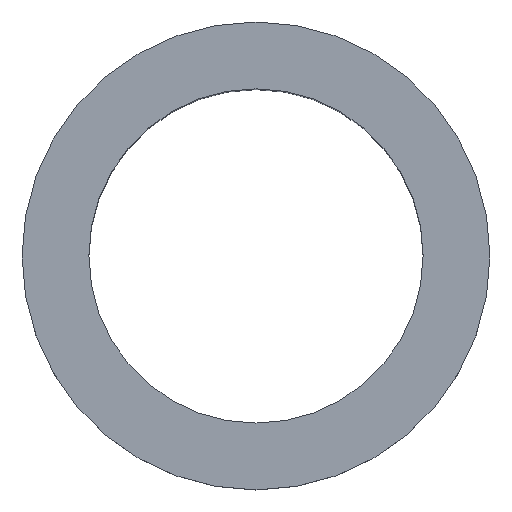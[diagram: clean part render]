
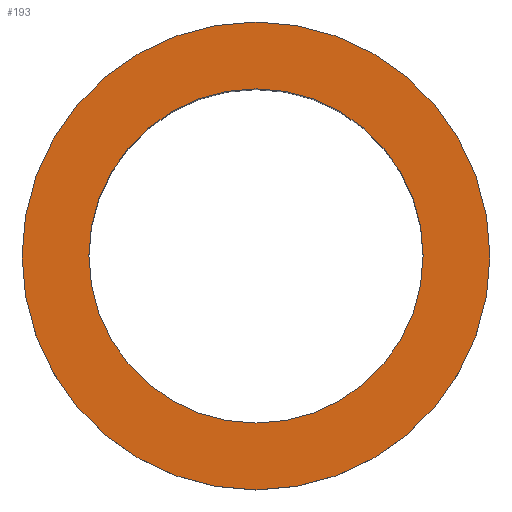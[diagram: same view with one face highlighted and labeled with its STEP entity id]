
A CAD part, top view. The second image highlights one B-rep face of the part: STEP entity #193.
In plain terms, the highlighted planar face has unit normal (0, 0, 1).
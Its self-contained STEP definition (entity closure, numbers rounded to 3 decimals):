
#193=ADVANCED_FACE('',(#223,#224),#220,.T.);
#220=PLANE('',#486);
#223=FACE_BOUND('',#229,.T.);
#224=FACE_BOUND('',#230,.T.);
#229=EDGE_LOOP('',(#259,#260));
#230=EDGE_LOOP('',(#261,#262));
#259=ORIENTED_EDGE('',*,*,#397,.T.);
#260=ORIENTED_EDGE('',*,*,#398,.T.);
#261=ORIENTED_EDGE('',*,*,#399,.F.);
#262=ORIENTED_EDGE('',*,*,#400,.F.);
#367=VERTEX_POINT('',#681);
#368=VERTEX_POINT('',#682);
#369=VERTEX_POINT('',#685);
#370=VERTEX_POINT('',#686);
#397=EDGE_CURVE('',#367,#368,#451,.T.);
#398=EDGE_CURVE('',#368,#367,#452,.T.);
#399=EDGE_CURVE('',#369,#370,#453,.T.);
#400=EDGE_CURVE('',#370,#369,#454,.T.);
#451=CIRCLE('',#482,17.5);
#452=CIRCLE('',#483,17.5);
#453=CIRCLE('',#484,12.5);
#454=CIRCLE('',#485,12.5);
#482=AXIS2_PLACEMENT_3D('',#680,#541,#542);
#483=AXIS2_PLACEMENT_3D('',#683,#543,#544);
#484=AXIS2_PLACEMENT_3D('',#684,#545,#546);
#485=AXIS2_PLACEMENT_3D('',#687,#547,#548);
#486=AXIS2_PLACEMENT_3D('',#688,#549,#550);
#541=DIRECTION('',(0.,0.,1.));
#542=DIRECTION('',(0.,1.,0.));
#543=DIRECTION('',(0.,0.,1.));
#544=DIRECTION('',(0.,-1.,0.));
#545=DIRECTION('',(0.,0.,1.));
#546=DIRECTION('',(0.,-1.,0.));
#547=DIRECTION('',(0.,0.,1.));
#548=DIRECTION('',(0.,1.,0.));
#549=DIRECTION('',(0.,0.,1.));
#550=DIRECTION('',(0.,1.,0.));
#680=CARTESIAN_POINT('',(0.,0.,3.));
#681=CARTESIAN_POINT('',(-17.5,0.,3.));
#682=CARTESIAN_POINT('',(17.5,0.,3.));
#683=CARTESIAN_POINT('',(0.,0.,3.));
#684=CARTESIAN_POINT('',(0.,0.,3.));
#685=CARTESIAN_POINT('',(12.5,0.,3.));
#686=CARTESIAN_POINT('',(-12.5,0.,3.));
#687=CARTESIAN_POINT('',(0.,0.,3.));
#688=CARTESIAN_POINT('',(0.,0.,3.));
